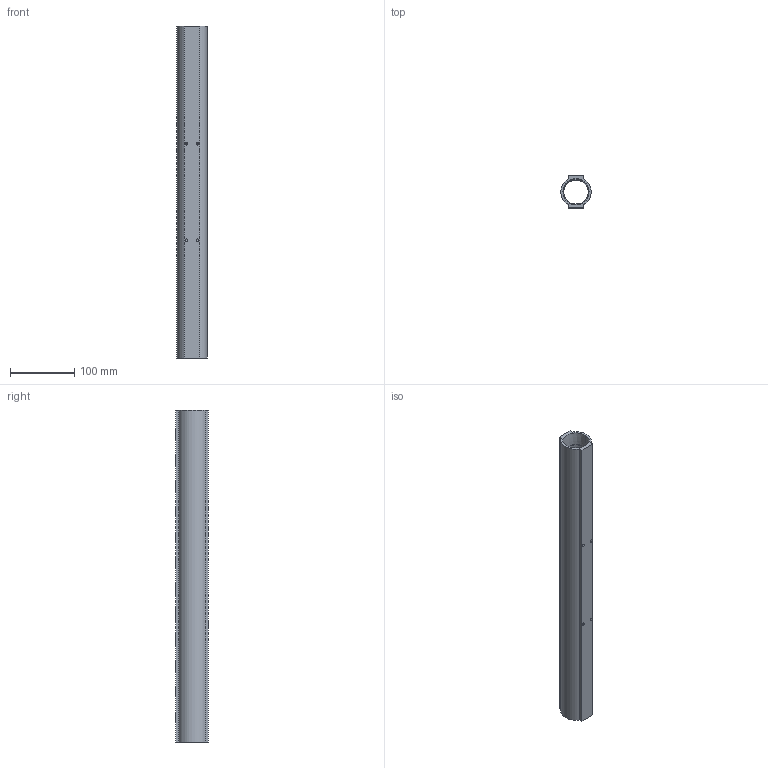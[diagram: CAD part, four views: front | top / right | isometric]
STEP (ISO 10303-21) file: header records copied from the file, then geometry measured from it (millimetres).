
FILE_DESCRIPTION (( 'STEP AP214' ), '1' );
FILE_NAME ('BWM12620B.STEP', '2022-03-15T05:37:36', ( '' ), ( '' ), 'SwSTEP 2.0', 'SolidWorks 2020', '' );
FILE_SCHEMA (( 'AUTOMOTIVE_DESIGN' ));
Length unit declared in the file: millimetre
Products named in the file (1): BWM12620B
Bounding box: 47 x 50 x 516 mm (x, y, z)
Volume: 352615.5 mm3; surface area: 147653.1 mm2
Topology: 1 solids, 1 shells, 236 faces, 637 edges, 418 vertices
Faces by surface type: plane 103, bspline 55, cylinder 42, cone 36
Entity records: 13629 total; most frequent: CARTESIAN_POINT 6057, ORIENTED_EDGE 1258, DIRECTION 837, EDGE_CURVE 629, VERTEX_POINT 418, LINE 309, VECTOR 309, EDGE_LOOP 285
